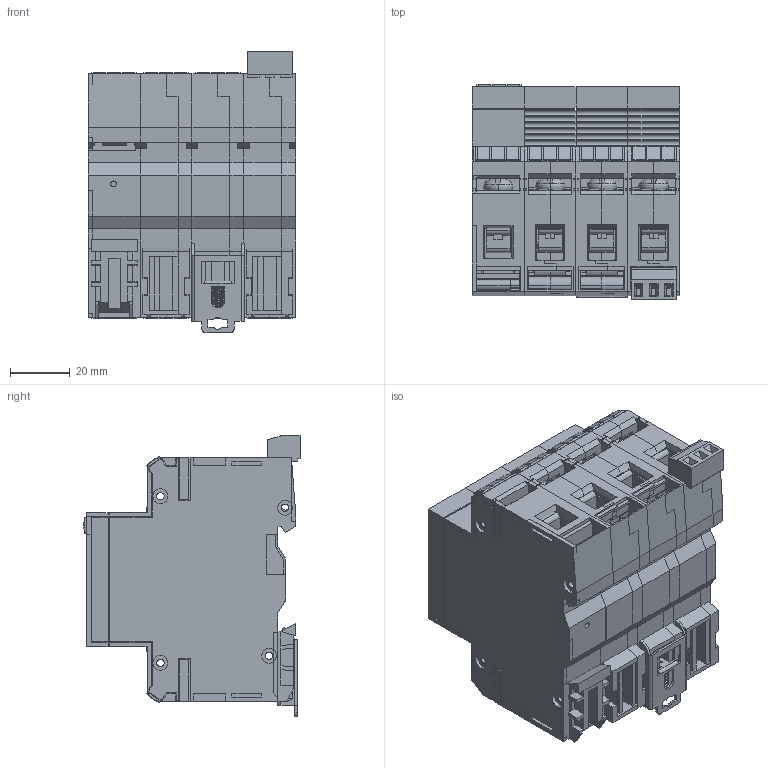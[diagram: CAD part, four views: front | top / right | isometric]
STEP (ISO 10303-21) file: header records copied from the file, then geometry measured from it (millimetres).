
FILE_DESCRIPTION (( 'STEP AP214' ), '1' );
FILE_NAME ('OptiIDn OM 3 ïîëþñà + OMu ñ ñèãíàëèçàòîðîì.STEP', '2022-12-06T11:32:40', ( '' ), ( '' ), 'SwSTEP 2.0', 'SolidWorks 2018', '' );
FILE_SCHEMA (( 'AUTOMOTIVE_DESIGN' ));
Length unit declared in the file: millimetre
Products named in the file (29): 鎔艜 03-024; Êîðïóñ ëåâûé ïóñòîé; Îñíîâàíèå ìîäóëÿ Ë 50-094(ïóñòîé ñ èçìåíåíûì ãàáàðèòîì)_„«ï ç¥àâ¥¦ ; Ïðóæèíà çàùåëêè 13-007; Âñòàâêà êîäèðîâî÷íàÿ 50-082; Êîëîäêà 03-039 ïîä íîâûé ãàáàðèòû; ﾈ淸韭瑣ⅱ 01; Îñíîâàíèå ìîäóëÿ Ï 50-095 ïóñòîé; Êîëîäêà øòåêåðíàÿ 540-2022 21-084; Çàùåëêà 11-010; ﾂ鏆鮏 01; 砑僔蠂縺 52-040_K3; Êîäèðîâî÷íàÿ âñòàâêà; Ïåðåìû÷êà 03-027; Çàãëóøêà ìîäóëÿ Ï 50-083; Çàãëóøêà ìîäóëÿ Ë 50-084; OptiIDn OM 3 ïîëþñà + OMu ñ ñèãíàëèçàòîðîì; 桎蝂鳪鳿僗闉 47-016 瀀嚦鍣; Ñüåìíûé ìîäóëü 01 ïóñòîé; 暑痫篑 镳噔 矬耱铋; ÎÌu ïóñòîé_„«ï á¡®àª¨; Ìåòêà 21-086; Âûâîä 53-027 îáðåçàíûé äëÿ ñàéòà; 署赅 01 矬耱铋; 扻豵鵨 01 瀀嚦鍣
Assembly tree (68 placements, depth 3):
  OptiIDn OM 3 ïîëþñà + OMu ñ ñèãíàëèçàòîðîì
    Îñíîâàíèå ìîäóëÿ Ë 50-094(ïóñòîé ñ èçìåíåíûì ãàáàðèòîì)_„«ï ç¥àâ¥¦ 
    Îñíîâàíèå ìîäóëÿ Ï 50-095 ïóñòîé
    Âûâîä 53-027 îáðåçàíûé äëÿ ñàéòà  x6
    Çàãëóøêà ìîäóëÿ Ë 50-084  x3
    Êîëîäêà 03-039 ïîä íîâûé ãàáàðèòû  x6
    Âñòàâêà êîäèðîâî÷íàÿ 50-082  x3
    鎔艜 03-024  x6
    砑僔蠂縺 52-040_K3
    Ìåòêà 21-086  x6
    Ñüåìíûé ìîäóëü 01 ïóñòîé  x3
      扻豵鵨 01 瀀嚦鍣
      署赅 01 矬耱铋
      Êîäèðîâî÷íàÿ âñòàâêà
      ﾂ鏆鮏 01
      Ìåòêà 21-086
    桎蝂鳪鳿僗闉 47-016 瀀嚦鍣
    Êîëîäêà øòåêåðíàÿ 540-2022 21-084
    Îñíîâàíèå ìîäóëÿ Ï 50-095 ïóñòîé
    Îñíîâàíèå ìîäóëÿ Ï 50-095 ïóñòîé
    Îñíîâàíèå ìîäóëÿ Ë 50-094(ïóñòîé ñ èçìåíåíûì ãàáàðèòîì)_„«ï ç¥àâ¥¦ 
    Îñíîâàíèå ìîäóëÿ Ë 50-094(ïóñòîé ñ èçìåíåíûì ãàáàðèòîì)_„«ï ç¥àâ¥¦ 
    Çàãëóøêà ìîäóëÿ Ï 50-083  x2
    Ïðóæèíà çàùåëêè 13-007
    Çàùåëêà 11-010
    Ïåðåìû÷êà 03-027
    ÎÌu ïóñòîé_„«ï á¡®àª¨
      Êîðïóñ ëåâûé ïóñòîé
      ﾈ淸韭瑣ⅱ 01
      暑痫篑 镳噔 矬耱铋
      Çàãëóøêà ìîäóëÿ Ë 50-084
      Çàãëóøêà ìîäóëÿ Ï 50-083
      Ìåòêà 21-086  x3
      Âûâîä 53-027 îáðåçàíûé äëÿ ñàéòà  x2
      鎔艜 03-024  x2
      Êîëîäêà 03-039 ïîä íîâûé ãàáàðèòû  x2
Bounding box: 69.8 x 72.58 x 94.6 mm (x, y, z)
Volume: 158578.9 mm3; surface area: 195729.9 mm2
Topology: 76 solids, 76 shells, 7518 faces, 20876 edges, 13597 vertices
Faces by surface type: plane 6079, cylinder 1373, torus 32, bspline 20, cone 14
Entity records: 128744 total; most frequent: CARTESIAN_POINT 24516, ORIENTED_EDGE 21732, DIRECTION 19911, EDGE_CURVE 10866, VECTOR 9523, LINE 9523, VERTEX_POINT 7129, AXIS2_PLACEMENT_3D 5194
